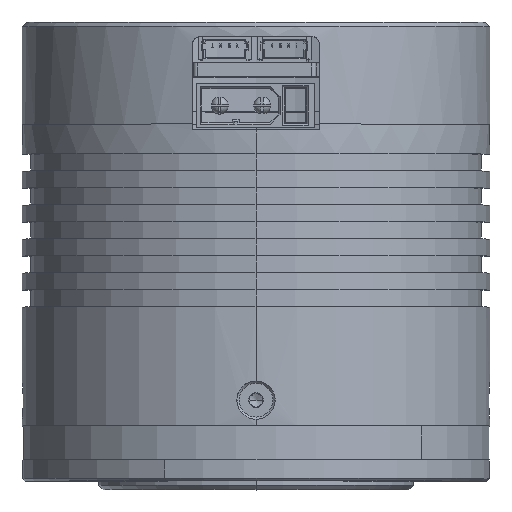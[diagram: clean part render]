
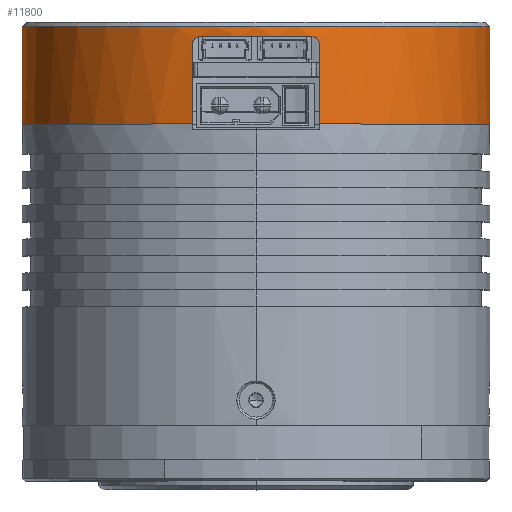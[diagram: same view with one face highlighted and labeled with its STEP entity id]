
A CAD part, top view. The second image highlights one B-rep face of the part: STEP entity #11800.
In plain terms, the highlighted cylindrical face has radius 27.5 mm (diameter 55 mm), a partial arc.
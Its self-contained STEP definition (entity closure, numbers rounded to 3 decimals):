
#64 = CARTESIAN_POINT ( 'NONE',  ( 7.5, 45.069, 26.458 ) ) ;
#311 = EDGE_CURVE ( 'NONE', #9418, #15971, #11189, .T. ) ;
#358 = EDGE_CURVE ( 'NONE', #10160, #12821, #6693, .T. ) ;
#423 = CARTESIAN_POINT ( 'NONE',  ( 27.5, 35.5, 0. ) ) ;
#674 = CARTESIAN_POINT ( 'NONE',  ( -7.473, 45.066, 26.465 ) ) ;
#714 = ORIENTED_EDGE ( 'NONE', *, *, #2528, .T. ) ;
#807 = DIRECTION ( 'NONE',  ( -1., 0., 0. ) ) ;
#866 = ORIENTED_EDGE ( 'NONE', *, *, #2676, .F. ) ;
#994 = EDGE_CURVE ( 'NONE', #9418, #16952, #17735, .T. ) ;
#1432 = CARTESIAN_POINT ( 'NONE',  ( 27.5, 47., 0. ) ) ;
#1590 = DIRECTION ( 'NONE',  ( -1., 0., 0. ) ) ;
#1618 = CARTESIAN_POINT ( 'NONE',  ( -7.5, 35.5, 26.458 ) ) ;
#1882 = EDGE_CURVE ( 'NONE', #11548, #16952, #12834, .T. ) ;
#2259 = VECTOR ( 'NONE', #8913, 1000. ) ;
#2363 = DIRECTION ( 'NONE',  ( -1., 0., 0. ) ) ;
#2467 = VERTEX_POINT ( 'NONE', #14408 ) ;
#2528 = EDGE_CURVE ( 'NONE', #2467, #10465, #6555, .T. ) ;
#2534 = DIRECTION ( 'NONE',  ( 0., 1., 0. ) ) ;
#2676 = EDGE_CURVE ( 'NONE', #2467, #5566, #6232, .T. ) ;
#2883 = CARTESIAN_POINT ( 'NONE',  ( 6.758, 45.775, 26.657 ) ) ;
#2907 = CARTESIAN_POINT ( 'NONE',  ( -7.37, 45.31, 26.494 ) ) ;
#3099 = DIRECTION ( 'NONE',  ( -1., 0., 0. ) ) ;
#3240 = ORIENTED_EDGE ( 'NONE', *, *, #13384, .T. ) ;
#3761 = ORIENTED_EDGE ( 'NONE', *, *, #1882, .T. ) ;
#4141 = CARTESIAN_POINT ( 'NONE',  ( 7.5, 44.8, 26.458 ) ) ;
#4343 = CARTESIAN_POINT ( 'NONE',  ( -6.998, 45.677, 26.595 ) ) ;
#4472 = ORIENTED_EDGE ( 'NONE', *, *, #358, .F. ) ;
#4604 = AXIS2_PLACEMENT_3D ( 'NONE', #17522, #17616, #807 ) ;
#4833 = LINE ( 'NONE', #6101, #2259 ) ;
#5090 = CARTESIAN_POINT ( 'NONE',  ( 7.5, 35.5, 26.458 ) ) ;
#5146 = AXIS2_PLACEMENT_3D ( 'NONE', #11395, #9976, #3099 ) ;
#5430 = CARTESIAN_POINT ( 'NONE',  ( -6.63, 45.8, 26.689 ) ) ;
#5566 = VERTEX_POINT ( 'NONE', #1618 ) ;
#5603 = CARTESIAN_POINT ( 'NONE',  ( -6.76, 45.774, 26.657 ) ) ;
#5659 = ORIENTED_EDGE ( 'NONE', *, *, #12580, .T. ) ;
#5836 = VECTOR ( 'NONE', #5874, 1000. ) ;
#5874 = DIRECTION ( 'NONE',  ( 0., -1., 0. ) ) ;
#6101 = CARTESIAN_POINT ( 'NONE',  ( 27.5, 35.5, 0. ) ) ;
#6144 = CARTESIAN_POINT ( 'NONE',  ( -7.5, 35.5, 26.458 ) ) ;
#6232 = LINE ( 'NONE', #6144, #5836 ) ;
#6555 = B_SPLINE_CURVE_WITH_KNOTS ( 'NONE', 3,
 ( #17308, #7458, #674, #2907, #7057, #8150, #4343, #5603, #5430, #9516 ),
 .UNSPECIFIED., .F., .F.,
 ( 4, 2, 2, 2, 4 ),
 ( 0., 0., 0.001, 0.001, 0.002 ),
 .UNSPECIFIED. ) ;
#6632 = ORIENTED_EDGE ( 'NONE', *, *, #994, .F. ) ;
#6693 = LINE ( 'NONE', #11020, #10618 ) ;
#6853 = ORIENTED_EDGE ( 'NONE', *, *, #16333, .T. ) ;
#7057 = CARTESIAN_POINT ( 'NONE',  ( -7.295, 45.421, 26.515 ) ) ;
#7458 = CARTESIAN_POINT ( 'NONE',  ( -7.5, 44.934, 26.458 ) ) ;
#8041 = CYLINDRICAL_SURFACE ( 'NONE', #4604, 27.5 ) ;
#8150 = CARTESIAN_POINT ( 'NONE',  ( -7.109, 45.604, 26.565 ) ) ;
#8198 = CARTESIAN_POINT ( 'NONE',  ( 0., 47., 0. ) ) ;
#8397 = CARTESIAN_POINT ( 'NONE',  ( 6.998, 45.677, 26.595 ) ) ;
#8913 = DIRECTION ( 'NONE',  ( 0., 1., 0. ) ) ;
#9172 = CIRCLE ( 'NONE', #9743, 27.5 ) ;
#9227 = FACE_OUTER_BOUND ( 'NONE', #13620, .T. ) ;
#9243 = CARTESIAN_POINT ( 'NONE',  ( 0., 35.5, 0. ) ) ;
#9418 = VERTEX_POINT ( 'NONE', #9566 ) ;
#9516 = CARTESIAN_POINT ( 'NONE',  ( -6.5, 45.8, 26.721 ) ) ;
#9566 = CARTESIAN_POINT ( 'NONE',  ( 7.5, 35.5, 26.458 ) ) ;
#9576 = CARTESIAN_POINT ( 'NONE',  ( 6.5, 45.8, 26.721 ) ) ;
#9603 = CARTESIAN_POINT ( 'NONE',  ( 0., 45.8, 0. ) ) ;
#9651 = ORIENTED_EDGE ( 'NONE', *, *, #16890, .T. ) ;
#9743 = AXIS2_PLACEMENT_3D ( 'NONE', #9603, #13920, #15370 ) ;
#9778 = CIRCLE ( 'NONE', #5146, 27.5 ) ;
#9976 = DIRECTION ( 'NONE',  ( 0., 1., 0. ) ) ;
#10160 = VERTEX_POINT ( 'NONE', #16889 ) ;
#10465 = VERTEX_POINT ( 'NONE', #17865 ) ;
#10603 = DIRECTION ( 'NONE',  ( 0., 1., 0. ) ) ;
#10618 = VECTOR ( 'NONE', #2534, 1000. ) ;
#11001 = CARTESIAN_POINT ( 'NONE',  ( 7.109, 45.604, 26.566 ) ) ;
#11020 = CARTESIAN_POINT ( 'NONE',  ( -27.5, 35.5, 0. ) ) ;
#11189 = CIRCLE ( 'NONE', #14366, 27.5 ) ;
#11395 = CARTESIAN_POINT ( 'NONE',  ( 0., 35.5, 0. ) ) ;
#11451 = ORIENTED_EDGE ( 'NONE', *, *, #311, .T. ) ;
#11548 = VERTEX_POINT ( 'NONE', #12475 ) ;
#11800 = ADVANCED_FACE ( 'NONE', ( #9227 ), #8041, .T. ) ;
#11879 = VERTEX_POINT ( 'NONE', #1432 ) ;
#12123 = CARTESIAN_POINT ( 'NONE',  ( 7.5, 44.8, 26.458 ) ) ;
#12475 = CARTESIAN_POINT ( 'NONE',  ( 6.5, 45.8, 26.721 ) ) ;
#12539 = CARTESIAN_POINT ( 'NONE',  ( 7.387, 45.33, 26.49 ) ) ;
#12580 = EDGE_CURVE ( 'NONE', #10465, #11548, #9172, .T. ) ;
#12821 = VERTEX_POINT ( 'NONE', #12835 ) ;
#12834 = B_SPLINE_CURVE_WITH_KNOTS ( 'NONE', 3,
 ( #9576, #15068, #2883, #8397, #11001, #12539, #64, #4141 ),
 .UNSPECIFIED., .F., .F.,
 ( 4, 2, 2, 4 ),
 ( 0., 0., 0.001, 0.002 ),
 .UNSPECIFIED. ) ;
#12835 = CARTESIAN_POINT ( 'NONE',  ( -27.5, 47., 0. ) ) ;
#13384 = EDGE_CURVE ( 'NONE', #11879, #12821, #16989, .T. ) ;
#13620 = EDGE_LOOP ( 'NONE', ( #11451, #6853, #3240, #4472, #9651, #866, #714, #5659, #3761, #6632 ) ) ;
#13798 = VECTOR ( 'NONE', #10603, 1000. ) ;
#13920 = DIRECTION ( 'NONE',  ( 0., 1., 0. ) ) ;
#14366 = AXIS2_PLACEMENT_3D ( 'NONE', #9243, #14736, #2363 ) ;
#14408 = CARTESIAN_POINT ( 'NONE',  ( -7.5, 44.8, 26.458 ) ) ;
#14736 = DIRECTION ( 'NONE',  ( 0., 1., 0. ) ) ;
#15050 = DIRECTION ( 'NONE',  ( 0., -1., 0. ) ) ;
#15068 = CARTESIAN_POINT ( 'NONE',  ( 6.63, 45.8, 26.689 ) ) ;
#15370 = DIRECTION ( 'NONE',  ( 0., 0., 1. ) ) ;
#15971 = VERTEX_POINT ( 'NONE', #423 ) ;
#16333 = EDGE_CURVE ( 'NONE', #15971, #11879, #4833, .T. ) ;
#16692 = AXIS2_PLACEMENT_3D ( 'NONE', #8198, #15050, #1590 ) ;
#16889 = CARTESIAN_POINT ( 'NONE',  ( -27.5, 35.5, 0. ) ) ;
#16890 = EDGE_CURVE ( 'NONE', #10160, #5566, #9778, .T. ) ;
#16952 = VERTEX_POINT ( 'NONE', #12123 ) ;
#16989 = CIRCLE ( 'NONE', #16692, 27.5 ) ;
#17308 = CARTESIAN_POINT ( 'NONE',  ( -7.5, 44.8, 26.458 ) ) ;
#17522 = CARTESIAN_POINT ( 'NONE',  ( 0., 35.5, 0. ) ) ;
#17616 = DIRECTION ( 'NONE',  ( 0., 1., 0. ) ) ;
#17735 = LINE ( 'NONE', #5090, #13798 ) ;
#17865 = CARTESIAN_POINT ( 'NONE',  ( -6.5, 45.8, 26.721 ) ) ;
